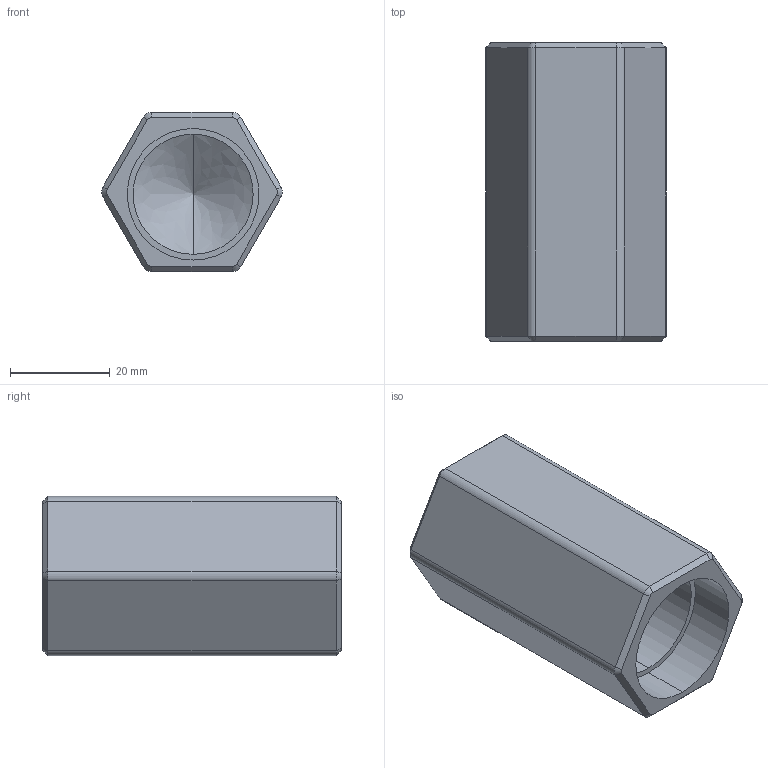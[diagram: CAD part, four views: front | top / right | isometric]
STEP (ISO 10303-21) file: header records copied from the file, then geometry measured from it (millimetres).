
FILE_DESCRIPTION( (''), '2;1');
FILE_NAME ('PC1276.8.CF-90 20A_293.stp','2025-06-09T15:32:22',(''),(''),'spGate 20.6.3 (****-****-****-****)','','');
FILE_SCHEMA (('AUTOMOTIVE_DESIGN'));
Length unit declared in the file: millimetre
Bounding box: 36.33 x 60 x 32 mm (x, y, z)
Volume: 31785.7 mm3; surface area: 11374.8 mm2
Topology: 1 solids, 1 shells, 52 faces, 116 edges, 66 vertices
Faces by surface type: plane 22, bspline 16, cylinder 14
Entity records: 2389 total; most frequent: CARTESIAN_POINT 338, ORIENTED_EDGE 224, DIRECTION 212, COLOUR_RGB 165, PRESENTATION_STYLE_ASSIGNMENT 165, STYLED_ITEM 165, EDGE_CURVE 112, DRAUGHTING_PRE_DEFINED_CURVE_FONT 112
